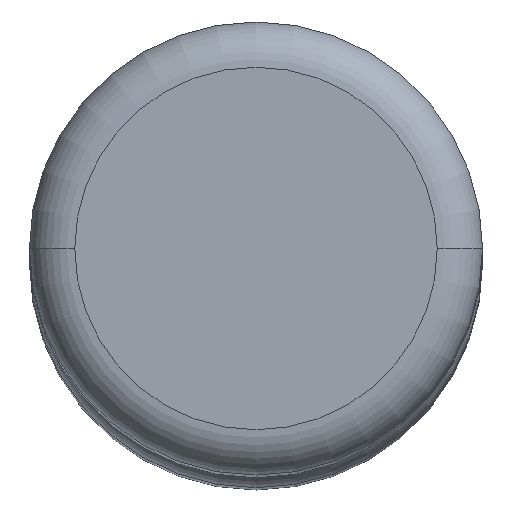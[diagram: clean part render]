
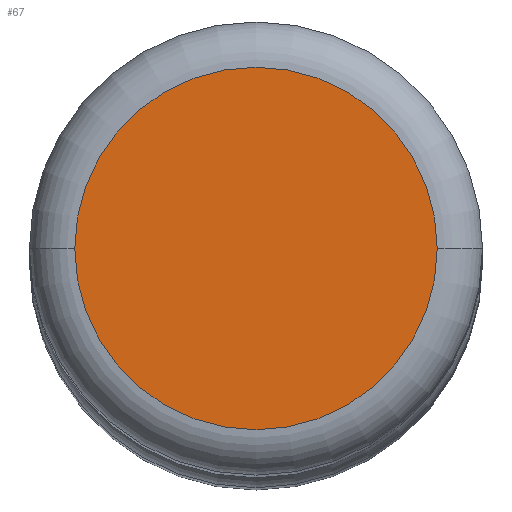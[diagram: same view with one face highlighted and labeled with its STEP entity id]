
A CAD part, top view. The second image highlights one B-rep face of the part: STEP entity #67.
In plain terms, the highlighted planar face has unit normal (0, 0, 1).
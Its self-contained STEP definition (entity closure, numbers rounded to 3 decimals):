
#3 = DIRECTION ( 'NONE',  ( 1., 0., 0. ) ) ;
#16 = FACE_OUTER_BOUND ( 'NONE', #495, .T. ) ;
#64 = AXIS2_PLACEMENT_3D ( 'NONE', #335, #463, #74 ) ;
#67 = ADVANCED_FACE ( 'NONE', ( #16 ), #104, .T. ) ;
#74 = DIRECTION ( 'NONE',  ( 1., 0., 0. ) ) ;
#76 = AXIS2_PLACEMENT_3D ( 'NONE', #123, #216, #429 ) ;
#97 = VERTEX_POINT ( 'NONE', #150 ) ;
#104 = PLANE ( 'NONE',  #64 ) ;
#123 = CARTESIAN_POINT ( 'NONE',  ( 0., 0., 160. ) ) ;
#150 = CARTESIAN_POINT ( 'NONE',  ( -4., 0., 160. ) ) ;
#216 = DIRECTION ( 'NONE',  ( 0., 0., 1. ) ) ;
#252 = ORIENTED_EDGE ( 'NONE', *, *, #581, .T. ) ;
#263 = CARTESIAN_POINT ( 'NONE',  ( 4., 0., 160. ) ) ;
#281 = DIRECTION ( 'NONE',  ( 0., 0., 1. ) ) ;
#335 = CARTESIAN_POINT ( 'NONE',  ( 0., 0., 160. ) ) ;
#398 = VERTEX_POINT ( 'NONE', #263 ) ;
#408 = CARTESIAN_POINT ( 'NONE',  ( 0., 0., 160. ) ) ;
#411 = EDGE_CURVE ( 'NONE', #398, #97, #584, .T. ) ;
#429 = DIRECTION ( 'NONE',  ( 1., 0., 0. ) ) ;
#432 = CIRCLE ( 'NONE', #573, 4. ) ;
#463 = DIRECTION ( 'NONE',  ( 0., 0., 1. ) ) ;
#495 = EDGE_LOOP ( 'NONE', ( #539, #252 ) ) ;
#539 = ORIENTED_EDGE ( 'NONE', *, *, #411, .T. ) ;
#573 = AXIS2_PLACEMENT_3D ( 'NONE', #408, #281, #3 ) ;
#581 = EDGE_CURVE ( 'NONE', #97, #398, #432, .T. ) ;
#584 = CIRCLE ( 'NONE', #76, 4. ) ;
